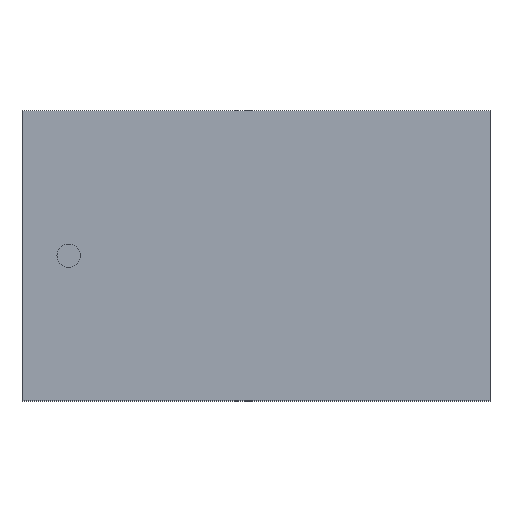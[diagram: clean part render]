
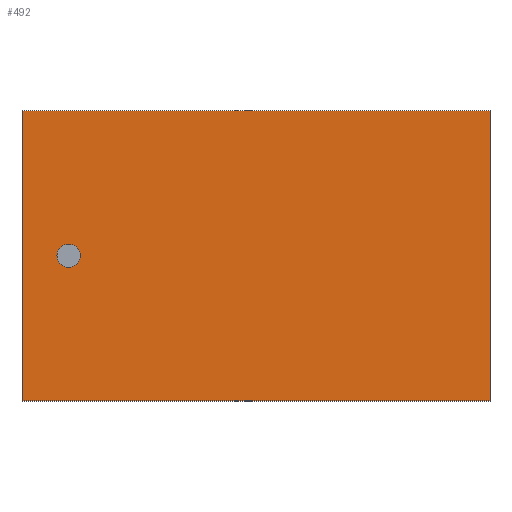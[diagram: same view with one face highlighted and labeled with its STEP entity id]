
A CAD part, top view. The second image highlights one B-rep face of the part: STEP entity #492.
In plain terms, the highlighted planar face has unit normal (0, 0, 1).
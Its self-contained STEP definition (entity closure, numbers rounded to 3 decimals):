
#268=CARTESIAN_POINT('',(1.003,-0.622,0.813));
#267=VERTEX_POINT('',#268);
#278=CARTESIAN_POINT('',(-1.003,-0.622,0.813));
#277=VERTEX_POINT('',#278);
#276=EDGE_CURVE('',#277,#267,#281,.T.);
#281=LINE('',#278,#283);
#283=VECTOR('',#284,2.007);
#284=DIRECTION('',(1.0,0.0,0.0));
#317=CARTESIAN_POINT('',(1.003,0.622,0.813));
#316=VERTEX_POINT('',#317);
#325=EDGE_CURVE('',#267,#316,#330,.T.);
#330=LINE('',#268,#332);
#332=VECTOR('',#333,1.245);
#333=DIRECTION('',(0.0,1.0,0.0));
#366=CARTESIAN_POINT('',(-1.003,0.622,0.813));
#365=VERTEX_POINT('',#366);
#374=EDGE_CURVE('',#316,#365,#379,.T.);
#379=LINE('',#317,#381);
#381=VECTOR('',#382,2.007);
#382=DIRECTION('',(-1.0,0.0,0.0));
#423=EDGE_CURVE('',#365,#277,#428,.T.);
#428=LINE('',#366,#430);
#430=VECTOR('',#431,1.245);
#431=DIRECTION('',(0.0,-1.0,0.0));
#492=ADVANCED_FACE('',(#498),#493,.T.);
#493=PLANE('',#494);
#494=AXIS2_PLACEMENT_3D('',#495,#496,#497);
#495=CARTESIAN_POINT('',(-1.003,-0.622,0.813));
#496=DIRECTION('',(0.0,0.0,1.0));
#497=DIRECTION('',(0.,1.,0.));
#498=FACE_OUTER_BOUND('',#499,.T.);
#499=EDGE_LOOP('',(#500,#510,#520,#530));
#500=ORIENTED_EDGE('',*,*,#276,.T.);
#510=ORIENTED_EDGE('',*,*,#325,.T.);
#520=ORIENTED_EDGE('',*,*,#374,.T.);
#530=ORIENTED_EDGE('',*,*,#423,.T.);
